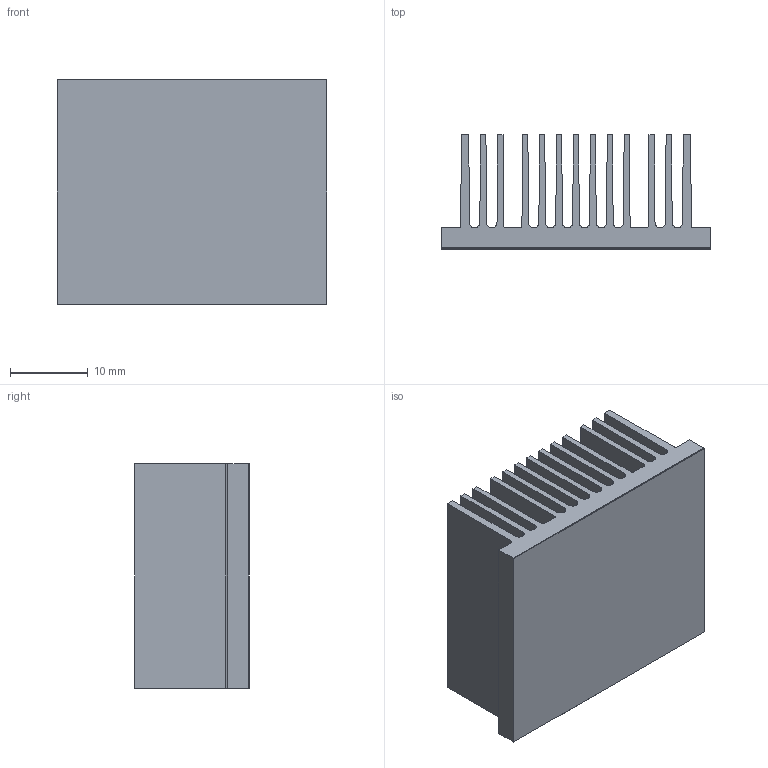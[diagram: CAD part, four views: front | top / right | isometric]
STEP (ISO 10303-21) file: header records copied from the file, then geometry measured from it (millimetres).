
FILE_DESCRIPTION (( 'STEP AP214' ), '1' );
FILE_NAME ('INH35001-15-2.6.STEP', '2023-02-17T22:44:30', ( '' ), ( '' ), 'SwSTEP 2.0', 'SolidWorks 2020', '' );
FILE_SCHEMA (( 'AUTOMOTIVE_DESIGN' ));
Length unit declared in the file: millimetre
Products named in the file (1): INH35001-15-2.6
Bounding box: 34.8 x 14.73 x 29 mm (x, y, z)
Volume: 6504.5 mm3; surface area: 13450.1 mm2
Topology: 2 solids, 2 shells, 90 faces, 258 edges, 172 vertices
Faces by surface type: plane 64, cylinder 26
Entity records: 3967 total; most frequent: CARTESIAN_POINT 521, ORIENTED_EDGE 516, DIRECTION 492, EDGE_CURVE 258, LINE 206, VECTOR 206, VERTEX_POINT 172, AXIS2_PLACEMENT_3D 143
